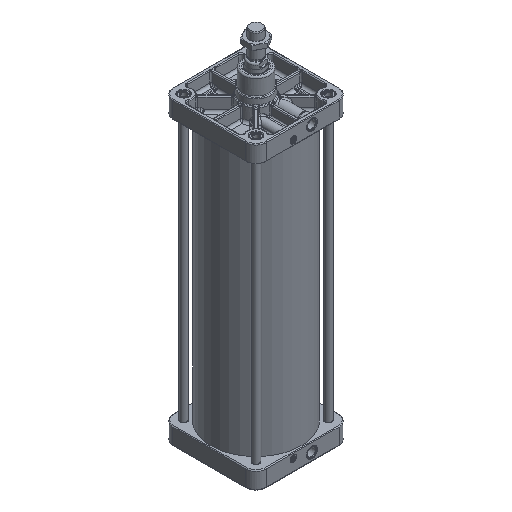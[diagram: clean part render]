
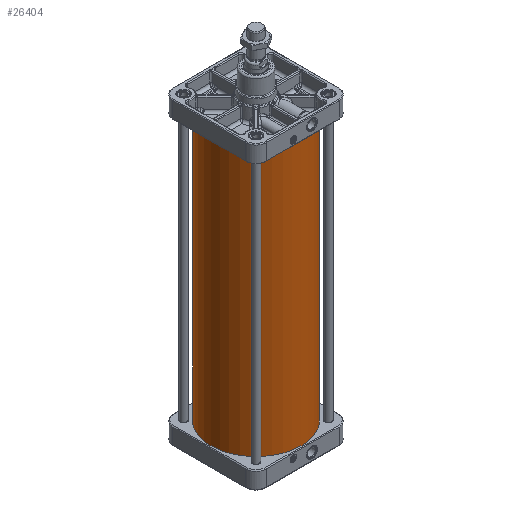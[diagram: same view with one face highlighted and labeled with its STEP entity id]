
A CAD part, isometric view. The second image highlights one B-rep face of the part: STEP entity #26404.
In plain terms, the highlighted cylindrical face has radius 168 mm (diameter 336 mm), a full revolution.
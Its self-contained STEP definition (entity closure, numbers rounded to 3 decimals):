
#2804=CIRCLE('',#29645,168.);
#2805=CIRCLE('',#29647,168.);
#3478=FACE_BOUND('',#7098,.T.);
#5147=FACE_OUTER_BOUND('',#7097,.T.);
#7097=EDGE_LOOP('',(#22547));
#7098=EDGE_LOOP('',(#22548));
#11979=VERTEX_POINT('',#64759);
#11980=VERTEX_POINT('',#64762);
#15511=EDGE_CURVE('',#11979,#11979,#2804,.T.);
#15512=EDGE_CURVE('',#11980,#11980,#2805,.T.);
#22547=ORIENTED_EDGE('',*,*,#15511,.T.);
#22548=ORIENTED_EDGE('',*,*,#15512,.T.);
#23070=CYLINDRICAL_SURFACE('',#29646,168.);
#26404=ADVANCED_FACE('',(#5147,#3478),#23070,.T.);
#29645=AXIS2_PLACEMENT_3D('',#64760,#36878,#36879);
#29646=AXIS2_PLACEMENT_3D('',#64761,#36880,#36881);
#29647=AXIS2_PLACEMENT_3D('',#64763,#36882,#36883);
#36878=DIRECTION('center_axis',(0.,0.,1.));
#36879=DIRECTION('ref_axis',(-1.,0.,0.));
#36880=DIRECTION('center_axis',(0.,0.,1.));
#36881=DIRECTION('ref_axis',(-1.,0.,0.));
#36882=DIRECTION('center_axis',(0.,0.,-1.));
#36883=DIRECTION('ref_axis',(-1.,0.,0.));
#64759=CARTESIAN_POINT('',(168.,0.,-495.));
#64760=CARTESIAN_POINT('Origin',(0.,0.,-495.));
#64761=CARTESIAN_POINT('Origin',(0.,0.,0.));
#64762=CARTESIAN_POINT('',(168.,0.,495.));
#64763=CARTESIAN_POINT('Origin',(0.,0.,495.));
